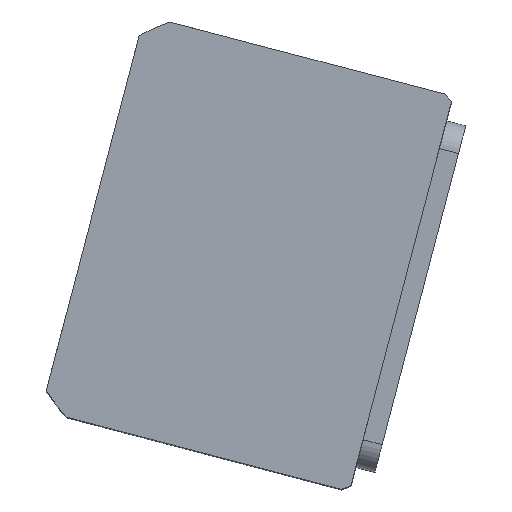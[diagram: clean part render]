
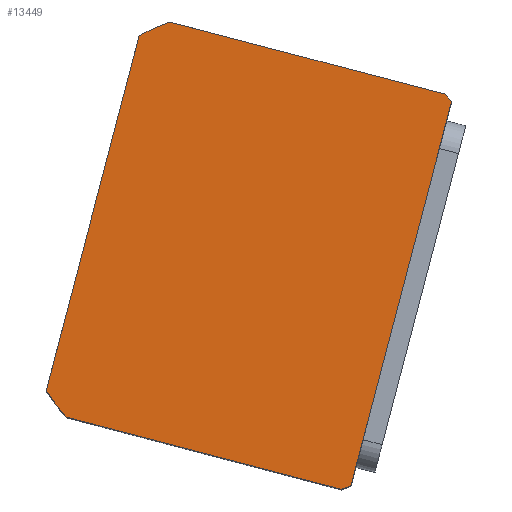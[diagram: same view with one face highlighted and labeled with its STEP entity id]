
A CAD part, top view. The second image highlights one B-rep face of the part: STEP entity #13449.
In plain terms, the highlighted planar face has unit normal (0, 0, 1) as drawn and (0, 0, -1) by its records, which use the part's own axes.
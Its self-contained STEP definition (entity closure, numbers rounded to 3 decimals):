
#332 = ORIENTED_EDGE ( 'NONE', *, *, #11986, .F. ) ;
#954 = CARTESIAN_POINT ( 'NONE',  ( 0., 2.508, 0. ) ) ;
#1116 = DIRECTION ( 'NONE',  ( 0., 0., 1. ) ) ;
#1475 = DIRECTION ( 'NONE',  ( 0., 1., 0. ) ) ;
#2371 = DIRECTION ( 'NONE',  ( 1., 0., 0. ) ) ;
#2696 = VERTEX_POINT ( 'NONE', #15336 ) ;
#3153 = AXIS2_PLACEMENT_3D ( 'NONE', #12734, #4301, #14180 ) ;
#3268 = VERTEX_POINT ( 'NONE', #5632 ) ;
#3321 = AXIS2_PLACEMENT_3D ( 'NONE', #4295, #14174, #5682 ) ;
#4165 = CARTESIAN_POINT ( 'NONE',  ( 57., 42.273, 0. ) ) ;
#4266 = VECTOR ( 'NONE', #1475, 1000. ) ;
#4295 = CARTESIAN_POINT ( 'NONE',  ( 0., 2.508, 0. ) ) ;
#4301 = DIRECTION ( 'NONE',  ( 0., 0., 1. ) ) ;
#4888 = CARTESIAN_POINT ( 'NONE',  ( 0., 0., 0. ) ) ;
#4904 = ORIENTED_EDGE ( 'NONE', *, *, #8236, .F. ) ;
#5299 = LINE ( 'NONE', #16040, #14391 ) ;
#5380 = LINE ( 'NONE', #6351, #12453 ) ;
#5632 = CARTESIAN_POINT ( 'NONE',  ( -57., 42.273, 0. ) ) ;
#5682 = DIRECTION ( 'NONE',  ( 1., 0., 0. ) ) ;
#5918 = CARTESIAN_POINT ( 'NONE',  ( -51.19, -44.5, 0. ) ) ;
#6300 = PLANE ( 'NONE',  #9629 ) ;
#6351 = CARTESIAN_POINT ( 'NONE',  ( -57., 44.5, 0. ) ) ;
#7321 = ORIENTED_EDGE ( 'NONE', *, *, #7858, .F. ) ;
#7723 = DIRECTION ( 'NONE',  ( 1., 0., 0. ) ) ;
#7858 = EDGE_CURVE ( 'NONE', #2696, #12053, #16046, .T. ) ;
#7924 = CARTESIAN_POINT ( 'NONE',  ( 51.19, -44.5, 0. ) ) ;
#8236 = EDGE_CURVE ( 'NONE', #8818, #13942, #11411, .T. ) ;
#8281 = EDGE_LOOP ( 'NONE', ( #4904, #332, #14230, #16338, #7321, #9163, #9997, #9536 ) ) ;
#8818 = VERTEX_POINT ( 'NONE', #4165 ) ;
#9163 = ORIENTED_EDGE ( 'NONE', *, *, #15223, .F. ) ;
#9536 = ORIENTED_EDGE ( 'NONE', *, *, #18029, .F. ) ;
#9541 = CIRCLE ( 'NONE', #12954, 69.5 ) ;
#9559 = CARTESIAN_POINT ( 'NONE',  ( 0., 2.508, 0. ) ) ;
#9629 = AXIS2_PLACEMENT_3D ( 'NONE', #4888, #16201, #7723 ) ;
#9997 = ORIENTED_EDGE ( 'NONE', *, *, #10847, .F. ) ;
#10629 = DIRECTION ( 'NONE',  ( -1., 0., 0. ) ) ;
#10839 = DIRECTION ( 'NONE',  ( 0., 0., 1. ) ) ;
#10847 = EDGE_CURVE ( 'NONE', #14784, #3268, #9541, .T. ) ;
#11000 = DIRECTION ( 'NONE',  ( 1., 0., 0. ) ) ;
#11189 = EDGE_CURVE ( 'NONE', #15654, #11429, #11969, .T. ) ;
#11275 = CARTESIAN_POINT ( 'NONE',  ( 55.38, 44.5, 0. ) ) ;
#11371 = CARTESIAN_POINT ( 'NONE',  ( 57., 44.5, 0. ) ) ;
#11411 = CIRCLE ( 'NONE', #14674, 69.5 ) ;
#11429 = VERTEX_POINT ( 'NONE', #12926 ) ;
#11934 = VECTOR ( 'NONE', #13625, 1000. ) ;
#11969 = CIRCLE ( 'NONE', #3153, 69.5 ) ;
#11986 = EDGE_CURVE ( 'NONE', #11429, #8818, #15083, .T. ) ;
#12053 = VERTEX_POINT ( 'NONE', #5918 ) ;
#12391 = LINE ( 'NONE', #16457, #11934 ) ;
#12453 = VECTOR ( 'NONE', #10629, 1000. ) ;
#12734 = CARTESIAN_POINT ( 'NONE',  ( 0., 2.508, 0. ) ) ;
#12926 = CARTESIAN_POINT ( 'NONE',  ( 57., -37.256, 0. ) ) ;
#12954 = AXIS2_PLACEMENT_3D ( 'NONE', #954, #10839, #2371 ) ;
#13272 = FACE_OUTER_BOUND ( 'NONE', #8281, .T. ) ;
#13449 = ADVANCED_FACE ( 'NONE', ( #13272 ), #6300, .F. ) ;
#13625 = DIRECTION ( 'NONE',  ( 1., 0., 0. ) ) ;
#13664 = EDGE_CURVE ( 'NONE', #12053, #15654, #12391, .T. ) ;
#13942 = VERTEX_POINT ( 'NONE', #11275 ) ;
#14174 = DIRECTION ( 'NONE',  ( 0., 0., 1. ) ) ;
#14180 = DIRECTION ( 'NONE',  ( 1., 0., 0. ) ) ;
#14230 = ORIENTED_EDGE ( 'NONE', *, *, #11189, .F. ) ;
#14391 = VECTOR ( 'NONE', #16094, 1000. ) ;
#14674 = AXIS2_PLACEMENT_3D ( 'NONE', #9559, #1116, #11000 ) ;
#14784 = VERTEX_POINT ( 'NONE', #15900 ) ;
#15083 = LINE ( 'NONE', #11371, #4266 ) ;
#15223 = EDGE_CURVE ( 'NONE', #3268, #2696, #5299, .T. ) ;
#15336 = CARTESIAN_POINT ( 'NONE',  ( -57., -37.256, 0. ) ) ;
#15654 = VERTEX_POINT ( 'NONE', #7924 ) ;
#15900 = CARTESIAN_POINT ( 'NONE',  ( -55.38, 44.5, 0. ) ) ;
#16040 = CARTESIAN_POINT ( 'NONE',  ( -57., 44.5, 0. ) ) ;
#16046 = CIRCLE ( 'NONE', #3321, 69.5 ) ;
#16094 = DIRECTION ( 'NONE',  ( 0., -1., 0. ) ) ;
#16201 = DIRECTION ( 'NONE',  ( 0., 0., 1. ) ) ;
#16338 = ORIENTED_EDGE ( 'NONE', *, *, #13664, .F. ) ;
#16457 = CARTESIAN_POINT ( 'NONE',  ( -57., -44.5, 0. ) ) ;
#18029 = EDGE_CURVE ( 'NONE', #13942, #14784, #5380, .T. ) ;
